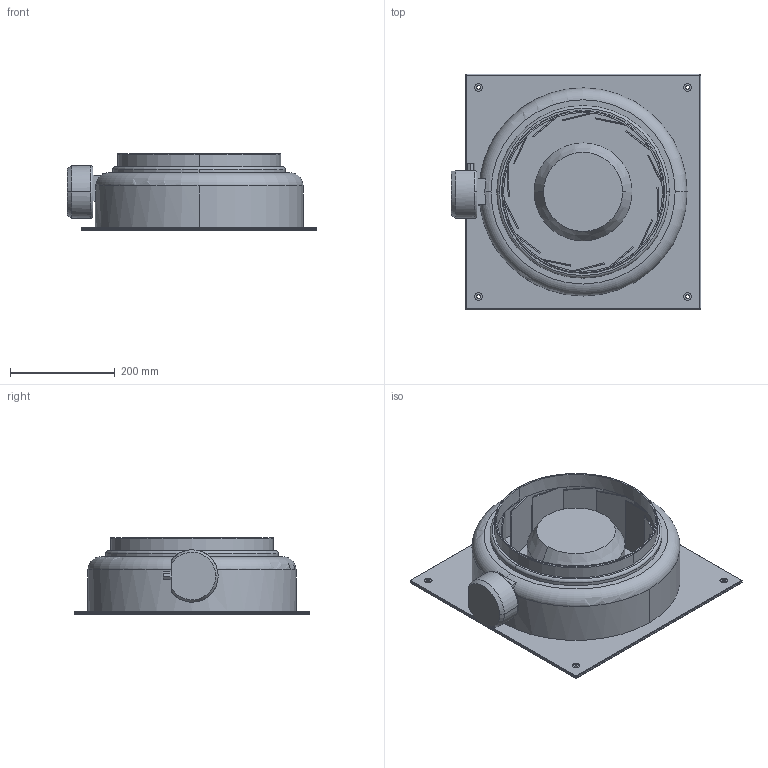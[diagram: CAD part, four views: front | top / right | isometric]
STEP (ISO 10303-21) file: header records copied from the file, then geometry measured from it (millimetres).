
FILE_DESCRIPTION(('STEP AP214'),'1');
FILE_NAME('fan_5145630000.stp','2017-03-31T18:13:25',('TraceParts'),('TraceParts S.A.'),'Spatial InterOp 3D',' ',' ');
FILE_SCHEMA(('automotive_design'));
Length unit declared in the file: millimetre
Products named in the file (1): fan_5145630000
Bounding box: 477 x 450 x 147 mm (x, y, z)
Volume: 5707402.7 mm3; surface area: 1141849.9 mm2
Topology: 1 solids, 1 shells, 184 faces, 539 edges, 347 vertices
Faces by surface type: plane 115, cylinder 44, torus 13, sphere 8, cone 4
Entity records: 7879 total; most frequent: CARTESIAN_POINT 1385, ORIENTED_EDGE 1062, DIRECTION 1047, EDGE_CURVE 531, AXIS2_PLACEMENT_3D 365, VERTEX_POINT 347, LINE 317, VECTOR 317
